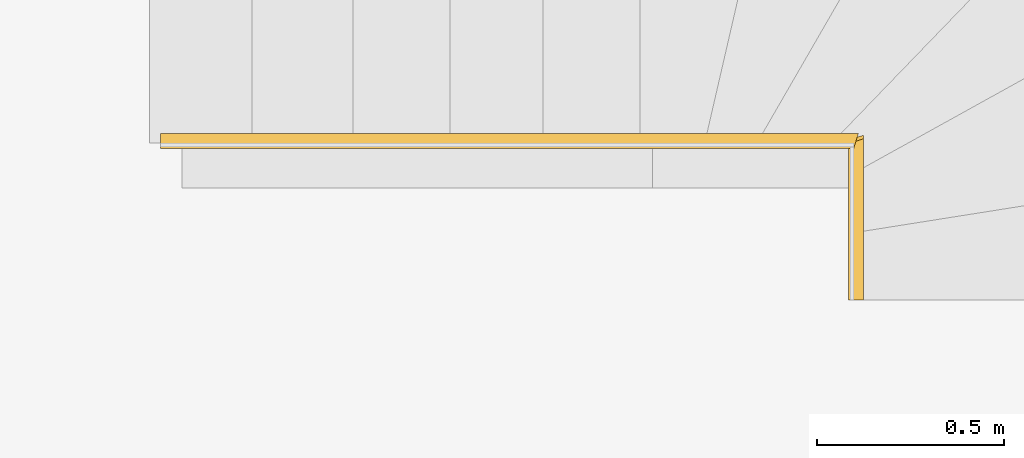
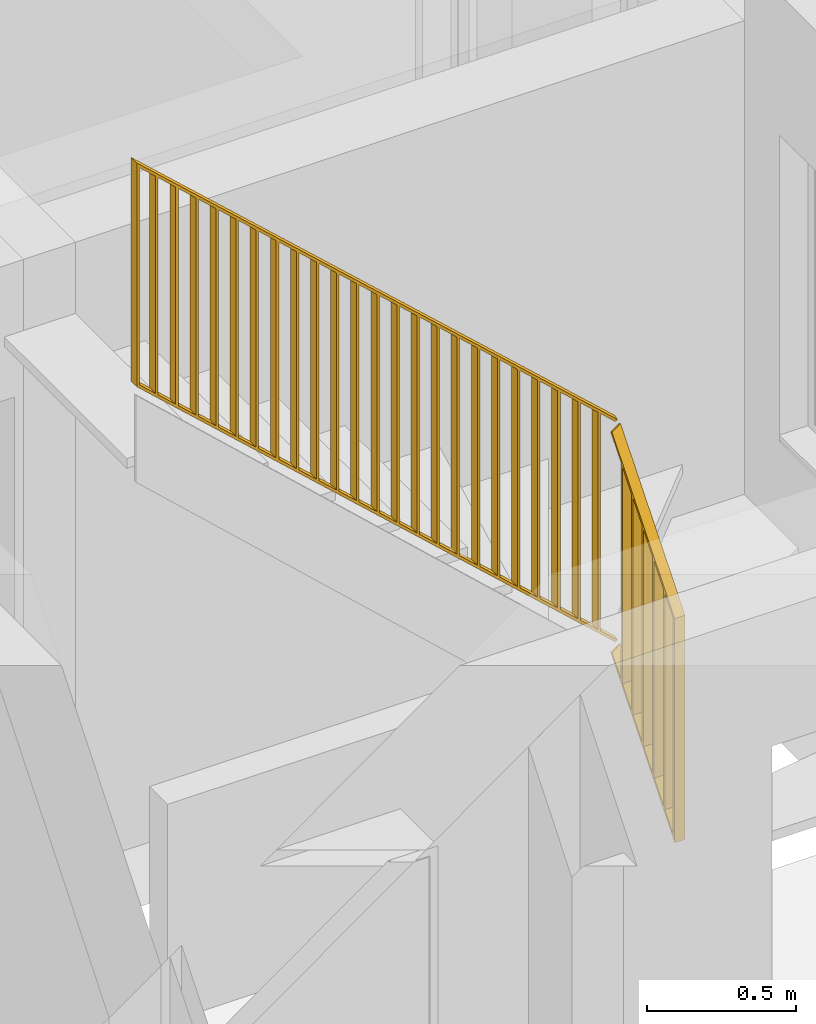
# One storey, part 10 of 18: 1 railing, 1 element without a shape of its own.
"""IFC2X3 building model written with IfcOpenShell, lengths in metres."""

from ifc_helpers import new_model, entity, si_unit, converted_unit, derived_unit, direction, frame, origin, place, context, subcontext, project, spatial, polyline, outline, extrude, faceted_brep, material, type_object, element, aggregate, save


model = new_model("IFC2X3")

# Units and contexts
model_context = context("Model", 3, precision=1e-05, world=origin(), true_north=direction((6.123233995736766e-17, 1.0)))
body_context = subcontext(model_context, "Body", "Model", "MODEL_VIEW")
ifc_project = project(units=[si_unit("LENGTHUNIT", "METRE"), si_unit("AREAUNIT", "SQUARE_METRE"), si_unit("VOLUMEUNIT", "CUBIC_METRE"), si_unit("POWERUNIT", "WATT"), derived_unit("USERDEFINED", [(si_unit("MASSUNIT", "GRAM", prefix="KILO"), 1), (si_unit("TIMEUNIT", "SECOND"), -3)]), derived_unit("THERMALRESISTANCEUNIT", [(si_unit("MASSUNIT", "GRAM", prefix="KILO"), -1), (si_unit("TIMEUNIT", "SECOND"), 3), (si_unit("THERMODYNAMICTEMPERATUREUNIT", "KELVIN"), 1)]), derived_unit("USERDEFINED", [(si_unit("MASSUNIT", "GRAM", prefix="KILO"), 1), (si_unit("TIMEUNIT", "SECOND"), -2), (si_unit("THERMODYNAMICTEMPERATUREUNIT", "KELVIN"), -1)]), derived_unit("THERMALTRANSMITTANCEUNIT", [(si_unit("MASSUNIT", "GRAM", prefix="KILO"), 1), (si_unit("TIMEUNIT", "SECOND"), -3), (si_unit("THERMODYNAMICTEMPERATUREUNIT", "KELVIN"), -1)]), converted_unit("PLANEANGLEUNIT", "DEGREE", entity("IfcPlaneAngleMeasure", 0.017453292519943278), si_unit("PLANEANGLEUNIT", "RADIAN"), dimensions=[0, 0, 0, 0, 0, 0, 0]), derived_unit("MOMENTOFINERTIAUNIT", [(si_unit("LENGTHUNIT", "METRE"), 4)])], contexts=[model_context])

# Site, building, storey
site_placement = place(None, origin())
site = spatial("IfcSite", under=ifc_project, at=site_placement, Name="Default", CompositionType="ELEMENT")
building_placement = place(site_placement, origin())
building = spatial("IfcBuilding", under=site, at=building_placement, CompositionType="ELEMENT")
storey_placement = place(building_placement, frame((0.0, 0.0, 2.6)))
storey = spatial("IfcBuildingStorey", under=building, at=storey_placement, Name="Erdgeschoss", CompositionType="ELEMENT", Elevation=2.6)

# Stair, railing
type_product = type_object("IfcTypeProduct", Name="Zusammengebaute Treppe:Wangen Stahl - Stufen Holz - 1 Stockwerkstrennlinie")
stair_placement = place(storey_placement, origin())
stair = element("IfcStair", 1, at=stair_placement, inside=storey, type_object=type_product, Name="Zusammengebaute Treppe:Treppe", ObjectType="Zusammengebaute Treppe:Wangen Stahl - Stufen Holz - 1 Stockwerkstrennlinie", ShapeType="NOTDEFINED")
ifc_material = material(Name="Kunststoff - grau 70-70-70")
railing_type = type_object("IfcRailingType", Name="Geländer:Vertikale Stäbe", PredefinedType="NOTDEFINED")
railing_placement = place(stair_placement, frame((35.398754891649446, 21.842272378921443, 0.2897320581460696)))
railing = element("IfcRailing", 2, at=railing_placement, type_object=railing_type, material=ifc_material, Name="Geländer:Vertikale Stäbe", ObjectType="Geländer:Vertikale Stäbe", PredefinedType="NOTDEFINED", context=body_context, shape_type="SolidModel", body=[
    extrude(outline(polyline([(-0.44043001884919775, -0.004999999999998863), (0.4495699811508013, -0.004999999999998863), (0.44043001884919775, 0.005000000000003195), (-0.4495699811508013, 0.004999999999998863), (-0.44043001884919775, -0.004999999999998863)])), frame((0.07764021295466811, 0.4054000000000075, 2.6493050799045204), z_axis=(0.0, 1.0, 0.0), x_axis=(0.0, 0.0, -1.0)), (0.0, 0.0, 1.0), 0.03999999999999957),
    extrude(outline(polyline([(-0.44043001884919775, -0.004999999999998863), (0.4495699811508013, -0.004999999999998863), (0.44043001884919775, 0.005000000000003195), (-0.4495699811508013, 0.004999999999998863), (-0.44043001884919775, -0.004999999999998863)])), frame((0.1552804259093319, 0.4054000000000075, 2.5783422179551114), z_axis=(0.0, 1.0, 0.0), x_axis=(0.0, 0.0, -1.0)), (0.0, 0.0, 1.0), 0.03999999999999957),
    extrude(outline(polyline([(-0.44043001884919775, -0.004999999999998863), (0.4495699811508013, -0.004999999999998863), (0.44043001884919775, 0.005000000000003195), (-0.4495699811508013, 0.004999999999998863), (-0.44043001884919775, -0.004999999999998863)])), frame((0.23292063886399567, 0.4054000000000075, 2.507379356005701), z_axis=(0.0, 1.0, 0.0), x_axis=(0.0, 0.0, -1.0)), (0.0, 0.0, 1.0), 0.03999999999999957),
    extrude(outline(polyline([(-0.44043001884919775, -0.004999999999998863), (0.4495699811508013, -0.004999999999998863), (0.44043001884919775, 0.005000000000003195), (-0.4495699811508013, 0.004999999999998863), (-0.44043001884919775, -0.004999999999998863)])), frame((0.31056085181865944, 0.4054000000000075, 2.436416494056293), z_axis=(0.0, 1.0, 0.0), x_axis=(0.0, 0.0, -1.0)), (0.0, 0.0, 1.0), 0.03999999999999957),
    extrude(outline(polyline([(-0.44043001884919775, -0.004999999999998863), (0.4495699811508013, -0.004999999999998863), (0.44043001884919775, 0.005000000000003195), (-0.4495699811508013, 0.004999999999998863), (-0.44043001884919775, -0.004999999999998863)])), frame((0.3882010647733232, 0.4054000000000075, 2.3654536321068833), z_axis=(0.0, 1.0, 0.0), x_axis=(0.0, 0.0, -1.0)), (0.0, 0.0, 1.0), 0.03999999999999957),
    extrude(outline(polyline([(-0.44043001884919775, -0.004999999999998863), (0.4495699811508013, -0.004999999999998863), (0.44043001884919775, 0.005000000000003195), (-0.4495699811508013, 0.004999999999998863), (-0.44043001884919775, -0.004999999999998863)])), frame((0.465841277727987, 0.4054000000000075, 2.294490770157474), z_axis=(0.0, 1.0, 0.0), x_axis=(0.0, 0.0, -1.0)), (0.0, 0.0, 1.0), 0.03999999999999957),
    extrude(outline(polyline([(-0.44043001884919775, -0.004999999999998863), (0.4495699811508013, -0.004999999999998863), (0.44043001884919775, 0.005000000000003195), (-0.4495699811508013, 0.004999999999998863), (-0.44043001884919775, -0.004999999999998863)])), frame((0.5434814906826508, 0.4054000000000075, 2.223527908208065), z_axis=(0.0, 1.0, 0.0), x_axis=(0.0, 0.0, -1.0)), (0.0, 0.0, 1.0), 0.03999999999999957),
    extrude(outline(polyline([(-0.44043001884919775, -0.004999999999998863), (0.4495699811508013, -0.004999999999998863), (0.44043001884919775, 0.005000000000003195), (-0.4495699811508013, 0.004999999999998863), (-0.44043001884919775, -0.004999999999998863)])), frame((0.6211217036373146, 0.4054000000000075, 2.152565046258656), z_axis=(0.0, 1.0, 0.0), x_axis=(0.0, 0.0, -1.0)), (0.0, 0.0, 1.0), 0.03999999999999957),
    extrude(outline(polyline([(-0.44043001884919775, -0.004999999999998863), (0.4495699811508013, -0.004999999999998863), (0.44043001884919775, 0.005000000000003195), (-0.4495699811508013, 0.004999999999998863), (-0.44043001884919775, -0.004999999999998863)])), frame((0.6987619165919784, 0.4054000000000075, 2.081602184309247), z_axis=(0.0, 1.0, 0.0), x_axis=(0.0, 0.0, -1.0)), (0.0, 0.0, 1.0), 0.03999999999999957),
    extrude(outline(polyline([(-0.44043001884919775, -0.004999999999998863), (0.4495699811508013, -0.004999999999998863), (0.44043001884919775, 0.005000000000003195), (-0.4495699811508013, 0.004999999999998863), (-0.44043001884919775, -0.004999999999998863)])), frame((0.7764021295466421, 0.4054000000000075, 2.010639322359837), z_axis=(0.0, 1.0, 0.0), x_axis=(0.0, 0.0, -1.0)), (0.0, 0.0, 1.0), 0.03999999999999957),
    extrude(outline(polyline([(-0.44043001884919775, -0.004999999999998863), (0.4495699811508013, -0.004999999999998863), (0.44043001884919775, 0.005000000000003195), (-0.4495699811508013, 0.004999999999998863), (-0.44043001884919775, -0.004999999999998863)])), frame((0.8540423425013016, 0.4054000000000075, 1.9396764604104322), z_axis=(0.0, 1.0, 0.0), x_axis=(0.0, 0.0, -1.0)), (0.0, 0.0, 1.0), 0.03999999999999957),
    extrude(outline(polyline([(-0.44043001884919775, -0.004999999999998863), (0.4495699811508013, -0.004999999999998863), (0.44043001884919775, 0.005000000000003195), (-0.4495699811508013, 0.004999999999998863), (-0.44043001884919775, -0.004999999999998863)])), frame((0.9316825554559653, 0.40540000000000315, 1.868713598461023), z_axis=(0.0, 1.0, 0.0), x_axis=(0.0, 0.0, -1.0)), (0.0, 0.0, 1.0), 0.03999999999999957),
    extrude(outline(polyline([(-0.44043001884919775, -0.004999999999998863), (0.4495699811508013, -0.004999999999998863), (0.44043001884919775, 0.005000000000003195), (-0.4495699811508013, 0.004999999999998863), (-0.44043001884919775, -0.004999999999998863)])), frame((1.0093227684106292, 0.40540000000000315, 1.797750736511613), z_axis=(0.0, 1.0, 0.0), x_axis=(0.0, 0.0, -1.0)), (0.0, 0.0, 1.0), 0.03999999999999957),
    extrude(outline(polyline([(-0.44043001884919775, -0.004999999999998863), (0.4495699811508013, -0.004999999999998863), (0.44043001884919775, 0.005000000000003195), (-0.4495699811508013, 0.004999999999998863), (-0.44043001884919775, -0.004999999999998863)])), frame((1.086962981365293, 0.40540000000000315, 1.726787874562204), z_axis=(0.0, 1.0, 0.0), x_axis=(0.0, 0.0, -1.0)), (0.0, 0.0, 1.0), 0.03999999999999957),
    extrude(outline(polyline([(-0.44043001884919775, -0.004999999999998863), (0.4495699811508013, -0.004999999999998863), (0.44043001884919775, 0.005000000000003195), (-0.4495699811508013, 0.004999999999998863), (-0.44043001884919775, -0.004999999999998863)])), frame((1.1646031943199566, 0.40540000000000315, 1.655825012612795), z_axis=(0.0, 1.0, 0.0), x_axis=(0.0, 0.0, -1.0)), (0.0, 0.0, 1.0), 0.03999999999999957),
    extrude(outline(polyline([(-0.44043001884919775, -0.004999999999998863), (0.4495699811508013, -0.004999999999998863), (0.44043001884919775, 0.005000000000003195), (-0.4495699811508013, 0.004999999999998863), (-0.44043001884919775, -0.004999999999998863)])), frame((1.2422434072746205, 0.40540000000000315, 1.584862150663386), z_axis=(0.0, 1.0, 0.0), x_axis=(0.0, 0.0, -1.0)), (0.0, 0.0, 1.0), 0.03999999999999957),
    extrude(outline(polyline([(-0.4404300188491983, -0.004999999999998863), (0.4495699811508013, -0.004999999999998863), (0.44043001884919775, 0.005000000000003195), (-0.4495699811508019, 0.004999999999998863), (-0.4404300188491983, -0.004999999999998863)])), frame((1.3198836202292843, 0.40540000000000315, 1.5138992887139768), z_axis=(0.0, 1.0, 0.0), x_axis=(0.0, 0.0, -1.0)), (0.0, 0.0, 1.0), 0.03999999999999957),
    extrude(outline(polyline([(-0.4404300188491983, -0.004999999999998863), (0.4495699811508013, -0.004999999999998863), (0.44043001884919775, 0.005000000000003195), (-0.4495699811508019, 0.004999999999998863), (-0.4404300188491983, -0.004999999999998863)])), frame((1.3975238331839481, 0.40540000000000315, 1.442936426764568), z_axis=(0.0, 1.0, 0.0), x_axis=(0.0, 0.0, -1.0)), (0.0, 0.0, 1.0), 0.03999999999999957),
    extrude(outline(polyline([(-0.4404300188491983, -0.004999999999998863), (0.4495699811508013, -0.004999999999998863), (0.44043001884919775, 0.005000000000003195), (-0.4495699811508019, 0.004999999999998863), (-0.4404300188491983, -0.004999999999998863)])), frame((1.4751640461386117, 0.40540000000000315, 1.3719735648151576), z_axis=(0.0, 1.0, 0.0), x_axis=(0.0, 0.0, -1.0)), (0.0, 0.0, 1.0), 0.03999999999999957),
    extrude(outline(polyline([(-0.4404300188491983, -0.004999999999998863), (0.4495699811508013, -0.004999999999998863), (0.44043001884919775, 0.005000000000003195), (-0.4495699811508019, 0.004999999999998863), (-0.4404300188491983, -0.004999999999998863)])), frame((1.5528042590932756, 0.40540000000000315, 1.3010107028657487), z_axis=(0.0, 1.0, 0.0), x_axis=(0.0, 0.0, -1.0)), (0.0, 0.0, 1.0), 0.03999999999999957),
    extrude(outline(polyline([(-0.44043001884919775, -0.004999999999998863), (0.4495699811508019, -0.004999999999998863), (0.4404300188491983, 0.005000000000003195), (-0.4495699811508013, 0.004999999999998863), (-0.44043001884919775, -0.004999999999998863)])), frame((1.6304444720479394, 0.40540000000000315, 1.2300478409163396), z_axis=(0.0, 1.0, 0.0), x_axis=(0.0, 0.0, -1.0)), (0.0, 0.0, 1.0), 0.03999999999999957),
    extrude(outline(polyline([(-0.44043001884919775, -0.004999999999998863), (0.4495699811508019, -0.004999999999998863), (0.4404300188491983, 0.005000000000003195), (-0.4495699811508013, 0.004999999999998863), (-0.44043001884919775, -0.004999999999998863)])), frame((1.7080846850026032, 0.40540000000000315, 1.1590849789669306), z_axis=(0.0, 1.0, 0.0), x_axis=(0.0, 0.0, -1.0)), (0.0, 0.0, 1.0), 0.03999999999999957),
    extrude(outline(polyline([(-0.44043001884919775, -0.004999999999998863), (0.4495699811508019, -0.004999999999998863), (0.4404300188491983, 0.005000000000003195), (-0.4495699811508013, 0.004999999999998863), (-0.44043001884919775, -0.004999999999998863)])), frame((1.7857248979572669, 0.40540000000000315, 1.0881221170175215), z_axis=(0.0, 1.0, 0.0), x_axis=(0.0, 0.0, -1.0)), (0.0, 0.0, 1.0), 0.03999999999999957),
    extrude(outline(polyline([(-0.4389583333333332, -0.004999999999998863), (0.4510416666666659, -0.004999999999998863), (0.4389583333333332, 0.005000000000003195), (-0.45104166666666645, 0.004999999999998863), (-0.4389583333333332, -0.004999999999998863)])), frame((1.843365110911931, 0.3545000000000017, 0.8890387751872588), z_axis=(1.0, 0.0, 0.0), x_axis=(0.0, 0.0, -1.0)), (0.0, 0.0, 1.0), 0.03999999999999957),
    extrude(outline(polyline([(-0.4389583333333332, -0.004999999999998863), (0.4510416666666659, -0.004999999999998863), (0.4389583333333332, 0.005000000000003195), (-0.45104166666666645, 0.004999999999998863), (-0.4389583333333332, -0.004999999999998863)])), frame((1.843365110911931, 0.28360000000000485, 0.8033679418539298), z_axis=(1.0, 0.0, 0.0), x_axis=(0.0, 0.0, -1.0)), (0.0, 0.0, 1.0), 0.03999999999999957),
    extrude(outline(polyline([(-0.43895833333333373, -0.004999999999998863), (0.4510416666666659, -0.004999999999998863), (0.4389583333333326, 0.005000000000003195), (-0.451041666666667, 0.004999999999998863), (-0.43895833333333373, -0.004999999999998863)])), frame((1.843365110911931, 0.21270000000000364, 0.7176971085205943), z_axis=(1.0, 0.0, 0.0), x_axis=(0.0, 0.0, -1.0)), (0.0, 0.0, 1.0), 0.03999999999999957),
    extrude(outline(polyline([(-0.43895833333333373, -0.004999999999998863), (0.4510416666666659, -0.004999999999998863), (0.4389583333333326, 0.005000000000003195), (-0.451041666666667, 0.004999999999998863), (-0.43895833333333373, -0.004999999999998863)])), frame((1.843365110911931, 0.14180000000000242, 0.6320262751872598), z_axis=(1.0, 0.0, 0.0), x_axis=(0.0, 0.0, -1.0)), (0.0, 0.0, 1.0), 0.03999999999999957),
    extrude(outline(polyline([(-0.4389583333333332, -0.005000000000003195), (0.4510416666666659, -0.005000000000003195), (0.4389583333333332, 0.004999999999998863), (-0.45104166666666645, 0.004999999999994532), (-0.4389583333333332, -0.005000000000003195)])), frame((1.843365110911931, 0.07090000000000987, 0.5463554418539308), z_axis=(1.0, 0.0, 0.0), x_axis=(0.0, 0.0, -1.0)), (0.0, 0.0, 1.0), 0.03999999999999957),
    extrude(outline(polyline([(-0.44043001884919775, -0.004999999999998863), (0.4495699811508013, -0.004999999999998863), (0.44043001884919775, 0.005000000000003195), (-0.4495699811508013, 0.004999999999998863), (-0.44043001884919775, -0.004999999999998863)])), frame((0.005000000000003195, 0.4054000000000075, 2.7156979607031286), z_axis=(0.0, 1.0, 0.0), x_axis=(0.0, 0.0, -1.0)), (0.0, 0.0, 1.0), 0.03999999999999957),
    extrude(outline(polyline([(-0.4389583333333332, -0.004999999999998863), (0.4510416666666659, -0.004999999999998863), (0.4389583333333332, 0.005000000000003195), (-0.45104166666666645, 0.004999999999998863), (-0.4389583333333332, -0.004999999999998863)])), frame((1.843365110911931, 0.005000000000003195, 0.46672627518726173), z_axis=(1.0, 0.0, 0.0), x_axis=(0.0, 0.0, -1.0)), (0.0, 0.0, 1.0), 0.03999999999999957),
    faceted_brep([(1.8433651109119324, 0.0, 0.9156846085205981), (1.8433651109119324, 0.0, 0.9000000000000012), (1.8833651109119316, 0.0, 0.9000000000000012), (1.8833651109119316, 0.0, 0.9156846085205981), (1.8433651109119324, 0.41920672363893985, 1.4222260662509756), (1.8833651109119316, 0.43159327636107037, 1.4371931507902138), (1.8833651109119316, 0.44110173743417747, 1.4329979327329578), (1.8433651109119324, 0.42871518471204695, 1.4180308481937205)], [[[0, 1, 2, 3]], [[4, 5, 6, 7]], [[1, 0, 4, 7]], [[2, 1, 7, 6]], [[3, 2, 6, 5]], [[0, 3, 5, 4]]]),
    faceted_brep([(1.8571718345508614, 0.4054000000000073, 1.4778198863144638), (1.8476633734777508, 0.4054000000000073, 1.4729629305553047), (1.8600499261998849, 0.44540000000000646, 1.4616416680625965), (1.8695583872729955, 0.44540000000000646, 1.4664986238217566), (0.0, 0.4054000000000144, 3.175267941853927), (0.0, 0.44540000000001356, 3.175267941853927), (0.0, 0.44540000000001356, 3.1617202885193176), (0.0, 0.4054000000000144, 3.1617202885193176)], [[[0, 1, 2, 3]], [[4, 5, 6, 7]], [[1, 0, 4, 7]], [[2, 1, 7, 6]], [[3, 2, 6, 5]], [[0, 3, 5, 4]]]),
    faceted_brep([(1.8433651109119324, 0.0, 0.015684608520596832), (1.8433651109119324, 0.0, 0.0), (1.8833651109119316, 0.0, 0.0), (1.8833651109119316, 0.0, 0.015684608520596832), (1.8433651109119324, 0.41920672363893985, 0.5222260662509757), (1.8833651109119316, 0.43159327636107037, 0.5371931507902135), (1.8833651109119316, 0.44110173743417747, 0.5329979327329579), (1.8433651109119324, 0.42871518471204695, 0.5180308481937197)], [[[0, 1, 2, 3]], [[4, 5, 6, 7]], [[1, 0, 4, 7]], [[2, 1, 7, 6]], [[3, 2, 6, 5]], [[0, 3, 5, 4]]]),
    faceted_brep([(1.8571718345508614, 0.40540000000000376, 0.5778198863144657), (1.8476633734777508, 0.40540000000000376, 0.5729629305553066), (1.8600499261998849, 0.4454000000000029, 0.5616416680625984), (1.8695583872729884, 0.4454000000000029, 0.5664986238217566), (0.0, 0.4054000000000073, 2.2752679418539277), (0.0, 0.44540000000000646, 2.2752679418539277), (0.0, 0.44540000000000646, 2.261720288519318), (0.0, 0.4054000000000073, 2.261720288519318)], [[[0, 1, 2, 3]], [[4, 5, 6, 7]], [[1, 0, 4, 7]], [[2, 1, 7, 6]], [[3, 2, 6, 5]], [[0, 3, 5, 4]]]),
])
aggregate(stair, [railing])

save(model, "model.ifc")
